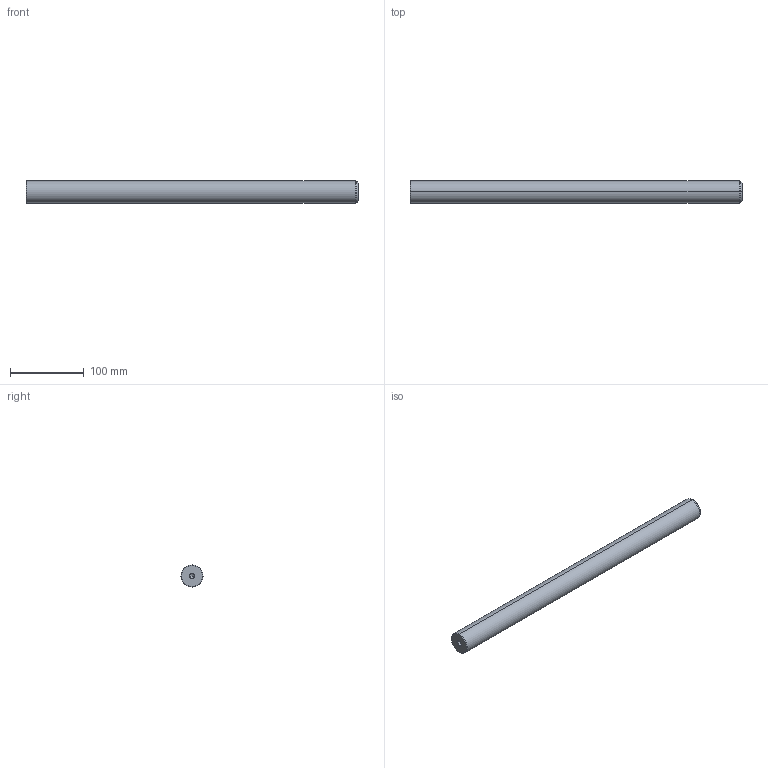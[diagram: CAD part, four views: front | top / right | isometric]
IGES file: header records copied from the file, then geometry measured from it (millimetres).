
Start section: START RECORD GO HERE.
Global section: file name: 720-30x450.igs; native system: DASSAULT SYSTEMES CATIA V5 R20 - www.3ds.com; preprocessor: CATIA Version 5 Release 20 ; author: Utente; organization: NB04-ASUS; date: 20210101.132625; units: millimetre
Bounding box: 450 x 30 x 30 mm (x, y, z)
Surface area: 44622.2 mm2 (no closed solid volume)
Topology: 0 solids, 0 shells, 22 faces, 120 edges, 116 vertices
Faces by surface type: revolution 20, plane 2
